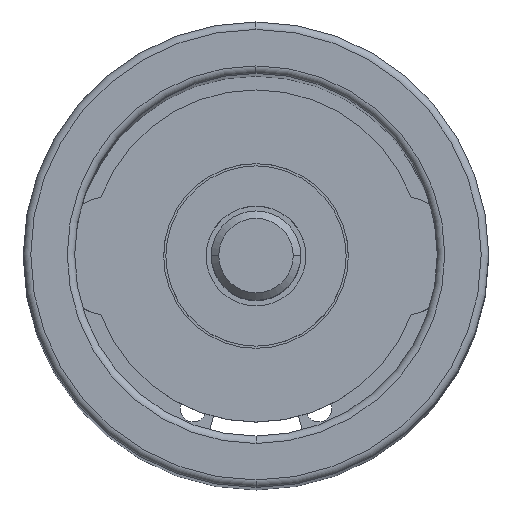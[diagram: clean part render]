
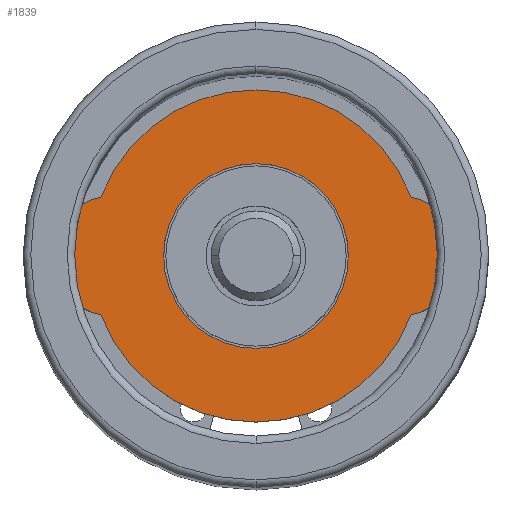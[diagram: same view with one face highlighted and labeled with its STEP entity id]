
A CAD part, top view. The second image highlights one B-rep face of the part: STEP entity #1839.
In plain terms, the highlighted planar face has unit normal (0, 0, 1).
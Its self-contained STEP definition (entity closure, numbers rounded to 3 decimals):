
#1701=CARTESIAN_POINT('',(6.2,0.,0.));
#1702=VERTEX_POINT('',#1701);
#1718=CARTESIAN_POINT('',(-6.2,0.,0.0));
#1719=VERTEX_POINT('',#1718);
#1726=CARTESIAN_POINT('',(0.0,0.,0.0));
#1727=DIRECTION('',(0.0,0.0,-1.0));
#1728=DIRECTION('',(1.0,0.0,0.0));
#1729=AXIS2_PLACEMENT_3D('',#1726,#1727,#1728);
#1730=CIRCLE('',#1729,6.2);
#1731=EDGE_CURVE('',#1702,#1719,#1730,.T.);
#1742=CARTESIAN_POINT('',(0.0,0.,0.0));
#1743=DIRECTION('',(0.0,0.0,-1.0));
#1744=DIRECTION('',(1.0,0.0,0.0));
#1745=AXIS2_PLACEMENT_3D('',#1742,#1743,#1744);
#1746=CIRCLE('',#1745,6.2);
#1747=EDGE_CURVE('',#1719,#1702,#1746,.T.);
#1767=CARTESIAN_POINT('',(-10.432,3.937,0.));
#1768=VERTEX_POINT('',#1767);
#1784=CARTESIAN_POINT('',(-10.432,-3.937,0.));
#1785=VERTEX_POINT('',#1784);
#1792=CARTESIAN_POINT('',(-9.725,0.,0.));
#1793=DIRECTION('',(0.0,0.0,-1.0));
#1794=DIRECTION('',(1.0,0.0,0.0));
#1795=AXIS2_PLACEMENT_3D('',#1792,#1793,#1794);
#1796=CIRCLE('',#1795,4.0);
#1797=EDGE_CURVE('',#1785,#1768,#1796,.T.);
#1802=CARTESIAN_POINT('',(0.0,0.,0.));
#1803=DIRECTION('',(0.0,0.0,1.0));
#1804=DIRECTION('',(1.0,0.0,0.0));
#1805=AXIS2_PLACEMENT_3D('',#1802,#1803,#1804);
#1806=PLANE('',#1805);
#1807=CARTESIAN_POINT('',(10.432,-3.937,0.));
#1808=VERTEX_POINT('',#1807);
#1809=CARTESIAN_POINT('',(0.0,0.,0.));
#1810=DIRECTION('',(0.0,0.0,-1.0));
#1811=DIRECTION('',(1.0,0.0,0.0));
#1812=AXIS2_PLACEMENT_3D('',#1809,#1810,#1811);
#1813=CIRCLE('',#1812,11.15);
#1814=EDGE_CURVE('',#1808,#1785,#1813,.T.);
#1815=ORIENTED_EDGE('',*,*,#1814,.F.);
#1816=CARTESIAN_POINT('',(10.432,3.937,0.));
#1817=VERTEX_POINT('',#1816);
#1818=CARTESIAN_POINT('',(9.725,0.,0.));
#1819=DIRECTION('',(0.0,0.0,-1.0));
#1820=DIRECTION('',(1.0,0.0,0.0));
#1821=AXIS2_PLACEMENT_3D('',#1818,#1819,#1820);
#1822=CIRCLE('',#1821,4.0);
#1823=EDGE_CURVE('',#1817,#1808,#1822,.T.);
#1824=ORIENTED_EDGE('',*,*,#1823,.F.);
#1825=CARTESIAN_POINT('',(0.0,0.,0.));
#1826=DIRECTION('',(0.0,0.0,-1.0));
#1827=DIRECTION('',(1.0,0.0,0.0));
#1828=AXIS2_PLACEMENT_3D('',#1825,#1826,#1827);
#1829=CIRCLE('',#1828,11.15);
#1830=EDGE_CURVE('',#1768,#1817,#1829,.T.);
#1831=ORIENTED_EDGE('',*,*,#1830,.F.);
#1832=ORIENTED_EDGE('',*,*,#1797,.F.);
#1833=EDGE_LOOP('',(#1815,#1824,#1831,#1832));
#1834=FACE_OUTER_BOUND('',#1833,.T.);
#1835=ORIENTED_EDGE('',*,*,#1731,.T.);
#1836=ORIENTED_EDGE('',*,*,#1747,.T.);
#1837=EDGE_LOOP('',(#1835,#1836));
#1838=FACE_BOUND('',#1837,.T.);
#1839=ADVANCED_FACE('',(#1834,#1838),#1806,.T.);
